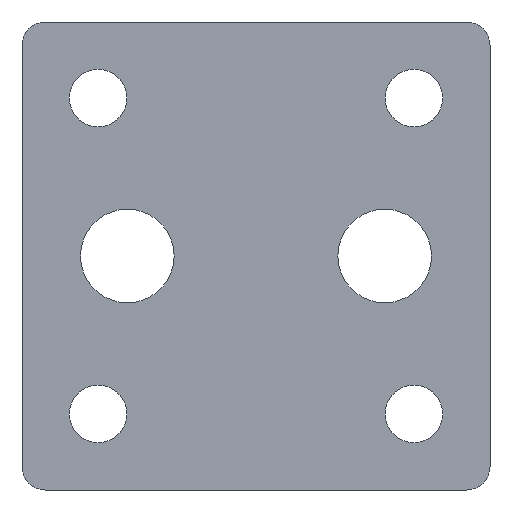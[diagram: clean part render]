
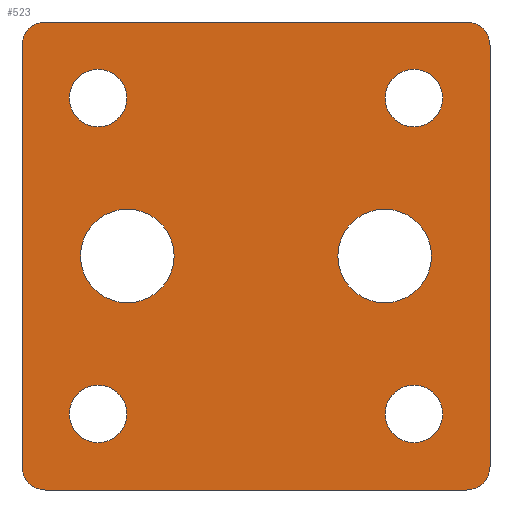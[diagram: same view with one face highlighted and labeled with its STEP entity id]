
A CAD part, front view. The second image highlights one B-rep face of the part: STEP entity #523.
In plain terms, the highlighted planar face has unit normal (0, -1, 0).
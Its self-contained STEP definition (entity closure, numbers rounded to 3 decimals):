
#49=FACE_BOUND('',#123,.T.);
#50=FACE_BOUND('',#124,.T.);
#51=FACE_BOUND('',#125,.T.);
#52=FACE_BOUND('',#126,.T.);
#53=FACE_BOUND('',#127,.T.);
#54=FACE_BOUND('',#128,.T.);
#73=PLANE('',#590);
#90=FACE_OUTER_BOUND('',#122,.T.);
#122=EDGE_LOOP('',(#438,#439,#440,#441,#442,#443,#444,#445));
#123=EDGE_LOOP('',(#446));
#124=EDGE_LOOP('',(#447));
#125=EDGE_LOOP('',(#448));
#126=EDGE_LOOP('',(#449));
#127=EDGE_LOOP('',(#450));
#128=EDGE_LOOP('',(#451));
#165=LINE('',#819,#197);
#176=LINE('',#856,#208);
#183=LINE('',#875,#215);
#184=LINE('',#881,#216);
#197=VECTOR('',#653,10.);
#208=VECTOR('',#688,10.);
#215=VECTOR('',#711,10.);
#216=VECTOR('',#720,10.);
#235=CIRCLE('',#584,2.);
#236=CIRCLE('',#586,2.);
#237=CIRCLE('',#589,2.);
#238=CIRCLE('',#591,2.);
#239=CIRCLE('',#592,2.459);
#240=CIRCLE('',#593,2.459);
#241=CIRCLE('',#594,2.459);
#242=CIRCLE('',#595,2.459);
#243=CIRCLE('',#596,4.);
#244=CIRCLE('',#597,4.);
#269=VERTEX_POINT('',#816);
#270=VERTEX_POINT('',#818);
#283=VERTEX_POINT('',#853);
#284=VERTEX_POINT('',#855);
#286=VERTEX_POINT('',#865);
#287=VERTEX_POINT('',#869);
#288=VERTEX_POINT('',#873);
#289=VERTEX_POINT('',#879);
#290=VERTEX_POINT('',#882);
#291=VERTEX_POINT('',#884);
#292=VERTEX_POINT('',#886);
#293=VERTEX_POINT('',#888);
#294=VERTEX_POINT('',#890);
#295=VERTEX_POINT('',#892);
#319=EDGE_CURVE('',#269,#270,#165,.T.);
#338=EDGE_CURVE('',#284,#283,#176,.T.);
#343=EDGE_CURVE('',#284,#286,#235,.T.);
#346=EDGE_CURVE('',#287,#283,#236,.T.);
#348=EDGE_CURVE('',#287,#288,#183,.T.);
#349=EDGE_CURVE('',#270,#288,#237,.T.);
#350=EDGE_CURVE('',#289,#269,#238,.T.);
#351=EDGE_CURVE('',#286,#289,#184,.T.);
#352=EDGE_CURVE('',#290,#290,#239,.T.);
#353=EDGE_CURVE('',#291,#291,#240,.T.);
#354=EDGE_CURVE('',#292,#292,#241,.T.);
#355=EDGE_CURVE('',#293,#293,#242,.T.);
#356=EDGE_CURVE('',#294,#294,#243,.T.);
#357=EDGE_CURVE('',#295,#295,#244,.T.);
#438=ORIENTED_EDGE('',*,*,#343,.F.);
#439=ORIENTED_EDGE('',*,*,#338,.T.);
#440=ORIENTED_EDGE('',*,*,#346,.F.);
#441=ORIENTED_EDGE('',*,*,#348,.T.);
#442=ORIENTED_EDGE('',*,*,#349,.F.);
#443=ORIENTED_EDGE('',*,*,#319,.F.);
#444=ORIENTED_EDGE('',*,*,#350,.F.);
#445=ORIENTED_EDGE('',*,*,#351,.F.);
#446=ORIENTED_EDGE('',*,*,#352,.T.);
#447=ORIENTED_EDGE('',*,*,#353,.T.);
#448=ORIENTED_EDGE('',*,*,#354,.T.);
#449=ORIENTED_EDGE('',*,*,#355,.T.);
#450=ORIENTED_EDGE('',*,*,#356,.T.);
#451=ORIENTED_EDGE('',*,*,#357,.T.);
#523=ADVANCED_FACE('',(#90,#49,#50,#51,#52,#53,#54),#73,.T.);
#584=AXIS2_PLACEMENT_3D('',#866,#700,#701);
#586=AXIS2_PLACEMENT_3D('',#871,#706,#707);
#589=AXIS2_PLACEMENT_3D('',#877,#714,#715);
#590=AXIS2_PLACEMENT_3D('',#878,#716,#717);
#591=AXIS2_PLACEMENT_3D('',#880,#718,#719);
#592=AXIS2_PLACEMENT_3D('',#883,#721,#722);
#593=AXIS2_PLACEMENT_3D('',#885,#723,#724);
#594=AXIS2_PLACEMENT_3D('',#887,#725,#726);
#595=AXIS2_PLACEMENT_3D('',#889,#727,#728);
#596=AXIS2_PLACEMENT_3D('',#891,#729,#730);
#597=AXIS2_PLACEMENT_3D('',#893,#731,#732);
#653=DIRECTION('',(0.,0.,-1.));
#688=DIRECTION('',(0.,0.,-1.));
#700=DIRECTION('center_axis',(0.,1.,0.));
#701=DIRECTION('ref_axis',(-0.707,0.,0.707));
#706=DIRECTION('center_axis',(0.,1.,0.));
#707=DIRECTION('ref_axis',(-0.707,0.,-0.707));
#711=DIRECTION('',(1.,0.,0.));
#714=DIRECTION('center_axis',(0.,1.,0.));
#715=DIRECTION('ref_axis',(0.707,0.,-0.707));
#716=DIRECTION('center_axis',(0.,-1.,0.));
#717=DIRECTION('ref_axis',(0.,0.,-1.));
#718=DIRECTION('center_axis',(0.,1.,0.));
#719=DIRECTION('ref_axis',(0.707,0.,0.707));
#720=DIRECTION('',(1.,0.,0.));
#721=DIRECTION('center_axis',(0.,1.,0.));
#722=DIRECTION('ref_axis',(1.,0.,0.));
#723=DIRECTION('center_axis',(0.,1.,0.));
#724=DIRECTION('ref_axis',(1.,0.,0.));
#725=DIRECTION('center_axis',(0.,1.,0.));
#726=DIRECTION('ref_axis',(1.,0.,0.));
#727=DIRECTION('center_axis',(0.,1.,0.));
#728=DIRECTION('ref_axis',(1.,0.,0.));
#729=DIRECTION('center_axis',(0.,1.,0.));
#730=DIRECTION('ref_axis',(1.,0.,0.));
#731=DIRECTION('center_axis',(0.,1.,0.));
#732=DIRECTION('ref_axis',(1.,0.,0.));
#816=CARTESIAN_POINT('',(40.,67.55,-399.45));
#818=CARTESIAN_POINT('',(40.,67.55,-435.45));
#819=CARTESIAN_POINT('',(40.,67.55,-397.45));
#853=CARTESIAN_POINT('',(0.,67.55,-435.45));
#855=CARTESIAN_POINT('',(0.,67.55,-399.45));
#856=CARTESIAN_POINT('',(0.,67.55,-397.45));
#865=CARTESIAN_POINT('',(2.,67.55,-397.45));
#866=CARTESIAN_POINT('Origin',(2.,67.55,-399.45));
#869=CARTESIAN_POINT('',(2.,67.55,-437.45));
#871=CARTESIAN_POINT('Origin',(2.,67.55,-435.45));
#873=CARTESIAN_POINT('',(38.,67.55,-437.45));
#875=CARTESIAN_POINT('',(0.,67.55,-437.45));
#877=CARTESIAN_POINT('Origin',(38.,67.55,-435.45));
#878=CARTESIAN_POINT('Origin',(0.,67.55,-397.45));
#879=CARTESIAN_POINT('',(38.,67.55,-397.45));
#880=CARTESIAN_POINT('Origin',(38.,67.55,-399.45));
#881=CARTESIAN_POINT('',(0.,67.55,-397.45));
#882=CARTESIAN_POINT('',(31.042,67.55,-430.95));
#883=CARTESIAN_POINT('Origin',(33.5,67.55,-430.95));
#884=CARTESIAN_POINT('',(4.042,67.55,-403.95));
#885=CARTESIAN_POINT('Origin',(6.5,67.55,-403.95));
#886=CARTESIAN_POINT('',(31.042,67.55,-403.95));
#887=CARTESIAN_POINT('Origin',(33.5,67.55,-403.95));
#888=CARTESIAN_POINT('',(4.041,67.55,-430.95));
#889=CARTESIAN_POINT('Origin',(6.5,67.55,-430.95));
#890=CARTESIAN_POINT('',(5.,67.55,-417.45));
#891=CARTESIAN_POINT('Origin',(9.,67.55,-417.45));
#892=CARTESIAN_POINT('',(27.,67.55,-417.45));
#893=CARTESIAN_POINT('Origin',(31.,67.55,-417.45));
